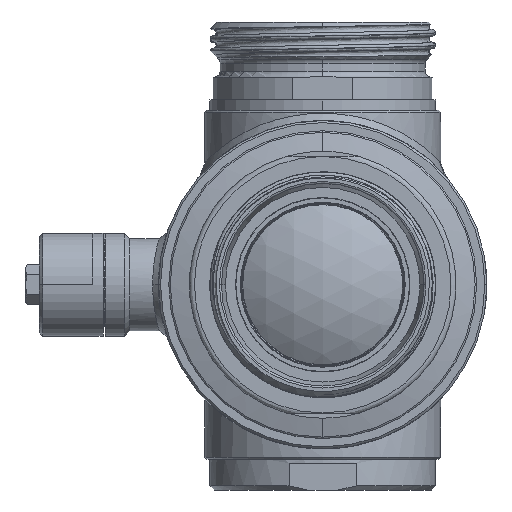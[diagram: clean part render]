
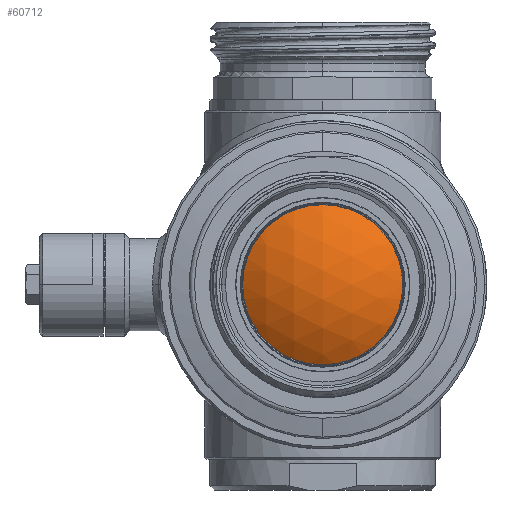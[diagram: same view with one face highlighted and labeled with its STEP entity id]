
A CAD part, left-side view. The second image highlights one B-rep face of the part: STEP entity #60712.
In plain terms, the highlighted spherical face has radius 68.75 mm.
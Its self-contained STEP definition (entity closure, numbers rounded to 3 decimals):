
#25079=CARTESIAN_POINT('',(-55.916,0.,0.));
#25080=DIRECTION('',(-1.,0.,0.));
#25081=DIRECTION('',(0.,-1.,0.));
#25082=AXIS2_PLACEMENT_3D('',#25079,#25080,#25081);
#25087=CARTESIAN_POINT('',(-55.916,0.,0.));
#25088=DIRECTION('',(-1.,0.,0.));
#25089=DIRECTION('',(0.,1.,0.));
#25090=AXIS2_PLACEMENT_3D('',#25087,#25088,#25089);
#41274=CARTESIAN_POINT('',(-55.916,-40.,0.));
#41275=CARTESIAN_POINT('',(-55.916,40.,0.));
#41276=VERTEX_POINT('',#41274);
#41277=VERTEX_POINT('',#41275);
#60702=CARTESIAN_POINT('',(0.,0.,0.));
#60703=DIRECTION('',(0.,-1.,0.));
#60704=DIRECTION('',(0.,0.,1.));
#60705=AXIS2_PLACEMENT_3D('',#60702,#60703,#60704);
#60706=SPHERICAL_SURFACE('',#60705,68.75);
#60707=ORIENTED_EDGE('',*,*,#60692,.F.);
#60709=ORIENTED_EDGE('',*,*,#60708,.F.);
#60710=EDGE_LOOP('',(#60707,#60709));
#60711=FACE_OUTER_BOUND('',#60710,.F.);
#60712=ADVANCED_FACE('',(#60711),#60706,.T.);
#25083=CIRCLE('',#25082,40.);
#25091=CIRCLE('',#25090,40.);
#60692=EDGE_CURVE('',#41276,#41277,#25083,.T.);
#60708=EDGE_CURVE('',#41277,#41276,#25091,.T.);
